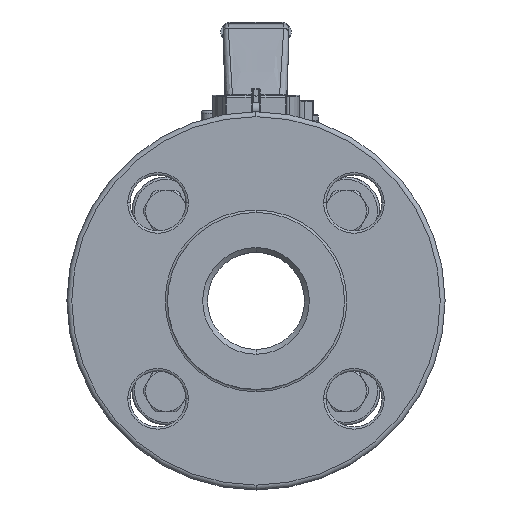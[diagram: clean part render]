
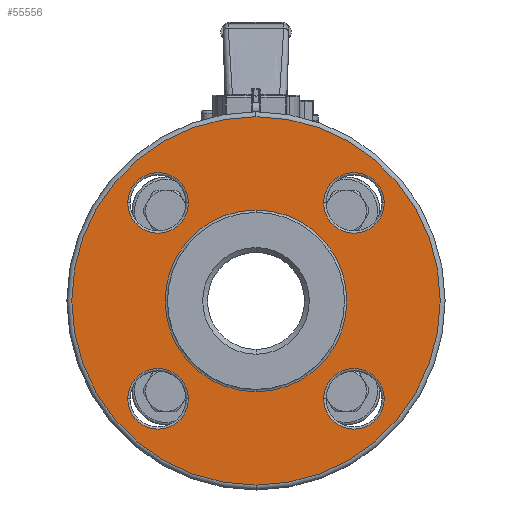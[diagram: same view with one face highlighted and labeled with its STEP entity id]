
A CAD part, left-side view. The second image highlights one B-rep face of the part: STEP entity #55556.
In plain terms, the highlighted planar face has unit normal (-1, 0, 0).
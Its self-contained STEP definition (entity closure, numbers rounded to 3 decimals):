
#55=CARTESIAN_POINT('',(-73.4,0.,0.));
#56=DIRECTION('',(-1.,0.,0.));
#57=DIRECTION('',(0.,0.,1.));
#58=AXIS2_PLACEMENT_3D('',#55,#56,#57);
#75=CARTESIAN_POINT('',(-73.4,0.,0.));
#76=DIRECTION('',(1.,0.,0.));
#77=DIRECTION('',(0.,0.,-1.));
#78=AXIS2_PLACEMENT_3D('',#75,#76,#77);
#98=CARTESIAN_POINT('',(-73.4,0.,0.));
#99=DIRECTION('',(1.,0.,0.));
#100=DIRECTION('',(0.,0.,1.));
#101=AXIS2_PLACEMENT_3D('',#98,#99,#100);
#44810=CARTESIAN_POINT('',(-73.4,40.411,40.411));
#44811=DIRECTION('',(1.,0.,0.));
#44812=DIRECTION('',(0.,1.,0.));
#44813=AXIS2_PLACEMENT_3D('',#44810,#44811,#44812);
#44825=CARTESIAN_POINT('',(-73.4,40.411,40.411));
#44826=DIRECTION('',(1.,0.,0.));
#44827=DIRECTION('',(0.,-1.,0.));
#44828=AXIS2_PLACEMENT_3D('',#44825,#44826,#44827);
#44878=CARTESIAN_POINT('',(-73.4,-40.411,40.411));
#44879=DIRECTION('',(1.,0.,0.));
#44880=DIRECTION('',(0.,-1.,0.));
#44881=AXIS2_PLACEMENT_3D('',#44878,#44879,#44880);
#44893=CARTESIAN_POINT('',(-73.4,-40.411,40.411));
#44894=DIRECTION('',(1.,0.,0.));
#44895=DIRECTION('',(0.,1.,0.));
#44896=AXIS2_PLACEMENT_3D('',#44893,#44894,#44895);
#44946=CARTESIAN_POINT('',(-73.4,-40.411,-40.411));
#44947=DIRECTION('',(1.,0.,0.));
#44948=DIRECTION('',(0.,1.,0.));
#44949=AXIS2_PLACEMENT_3D('',#44946,#44947,#44948);
#44961=CARTESIAN_POINT('',(-73.4,-40.411,-40.411));
#44962=DIRECTION('',(1.,0.,0.));
#44963=DIRECTION('',(0.,-1.,0.));
#44964=AXIS2_PLACEMENT_3D('',#44961,#44962,#44963);
#45014=CARTESIAN_POINT('',(-73.4,40.411,-40.411));
#45015=DIRECTION('',(1.,0.,0.));
#45016=DIRECTION('',(0.,-1.,0.));
#45017=AXIS2_PLACEMENT_3D('',#45014,#45015,#45016);
#45029=CARTESIAN_POINT('',(-73.4,40.411,-40.411));
#45030=DIRECTION('',(1.,0.,0.));
#45031=DIRECTION('',(0.,1.,0.));
#45032=AXIS2_PLACEMENT_3D('',#45029,#45030,#45031);
#45048=CARTESIAN_POINT('',(-73.4,0.,0.));
#45049=DIRECTION('',(-1.,0.,0.));
#45050=DIRECTION('',(0.,0.,-1.));
#45051=AXIS2_PLACEMENT_3D('',#45048,#45049,#45050);
#45079=CARTESIAN_POINT('',(-73.4,0.,-76.));
#45080=CARTESIAN_POINT('',(-73.4,0.,76.));
#45081=VERTEX_POINT('',#45079);
#45082=VERTEX_POINT('',#45080);
#45943=CARTESIAN_POINT('',(-73.4,52.911,40.411));
#45944=CARTESIAN_POINT('',(-73.4,27.911,40.411));
#45945=VERTEX_POINT('',#45943);
#45946=VERTEX_POINT('',#45944);
#45959=CARTESIAN_POINT('',(-73.4,-52.911,40.411));
#45960=CARTESIAN_POINT('',(-73.4,-27.911,40.411));
#45961=VERTEX_POINT('',#45959);
#45962=VERTEX_POINT('',#45960);
#45975=CARTESIAN_POINT('',(-73.4,-27.911,-40.411));
#45976=CARTESIAN_POINT('',(-73.4,-52.911,-40.411));
#45977=VERTEX_POINT('',#45975);
#45978=VERTEX_POINT('',#45976);
#45991=CARTESIAN_POINT('',(-73.4,52.911,-40.411));
#45992=CARTESIAN_POINT('',(-73.4,27.911,-40.411));
#45993=VERTEX_POINT('',#45991);
#45994=VERTEX_POINT('',#45992);
#46430=CARTESIAN_POINT('',(-73.4,0.,37.5));
#46431=CARTESIAN_POINT('',(-73.4,0.,-37.5));
#46432=VERTEX_POINT('',#46430);
#46433=VERTEX_POINT('',#46431);
#55516=CARTESIAN_POINT('',(-73.4,0.,0.));
#55517=DIRECTION('',(-1.,0.,0.));
#55518=DIRECTION('',(0.,0.,1.));
#55519=AXIS2_PLACEMENT_3D('',#55516,#55517,#55518);
#55520=PLANE('',#55519);
#55522=ORIENTED_EDGE('',*,*,#55521,.T.);
#55524=ORIENTED_EDGE('',*,*,#55523,.T.);
#55525=EDGE_LOOP('',(#55522,#55524));
#55526=FACE_OUTER_BOUND('',#55525,.F.);
#55527=ORIENTED_EDGE('',*,*,#55506,.T.);
#55529=ORIENTED_EDGE('',*,*,#55528,.T.);
#55530=EDGE_LOOP('',(#55527,#55529));
#55531=FACE_BOUND('',#55530,.F.);
#55533=ORIENTED_EDGE('',*,*,#55532,.F.);
#55535=ORIENTED_EDGE('',*,*,#55534,.F.);
#55536=EDGE_LOOP('',(#55533,#55535));
#55537=FACE_BOUND('',#55536,.F.);
#55539=ORIENTED_EDGE('',*,*,#55538,.F.);
#55541=ORIENTED_EDGE('',*,*,#55540,.F.);
#55542=EDGE_LOOP('',(#55539,#55541));
#55543=FACE_BOUND('',#55542,.F.);
#55545=ORIENTED_EDGE('',*,*,#55544,.F.);
#55547=ORIENTED_EDGE('',*,*,#55546,.F.);
#55548=EDGE_LOOP('',(#55545,#55547));
#55549=FACE_BOUND('',#55548,.F.);
#55551=ORIENTED_EDGE('',*,*,#55550,.F.);
#55553=ORIENTED_EDGE('',*,*,#55552,.F.);
#55554=EDGE_LOOP('',(#55551,#55553));
#55555=FACE_BOUND('',#55554,.F.);
#55556=ADVANCED_FACE('',(#55526,#55531,#55537,#55543,#55549,#55555),#55520,.T.);
#59=CIRCLE('',#58,37.5);
#79=CIRCLE('',#78,76.);
#102=CIRCLE('',#101,76.);
#44814=CIRCLE('',#44813,12.5);
#44829=CIRCLE('',#44828,12.5);
#44882=CIRCLE('',#44881,12.5);
#44897=CIRCLE('',#44896,12.5);
#44950=CIRCLE('',#44949,12.5);
#44965=CIRCLE('',#44964,12.5);
#45018=CIRCLE('',#45017,12.5);
#45033=CIRCLE('',#45032,12.5);
#45052=CIRCLE('',#45051,37.5);
#55506=EDGE_CURVE('',#46432,#46433,#59,.T.);
#55521=EDGE_CURVE('',#45081,#45082,#79,.T.);
#55523=EDGE_CURVE('',#45082,#45081,#102,.T.);
#55528=EDGE_CURVE('',#46433,#46432,#45052,.T.);
#55532=EDGE_CURVE('',#45945,#45946,#44814,.T.);
#55534=EDGE_CURVE('',#45946,#45945,#44829,.T.);
#55538=EDGE_CURVE('',#45961,#45962,#44882,.T.);
#55540=EDGE_CURVE('',#45962,#45961,#44897,.T.);
#55544=EDGE_CURVE('',#45977,#45978,#44950,.T.);
#55546=EDGE_CURVE('',#45978,#45977,#44965,.T.);
#55550=EDGE_CURVE('',#45993,#45994,#45033,.T.);
#55552=EDGE_CURVE('',#45994,#45993,#45018,.T.);
